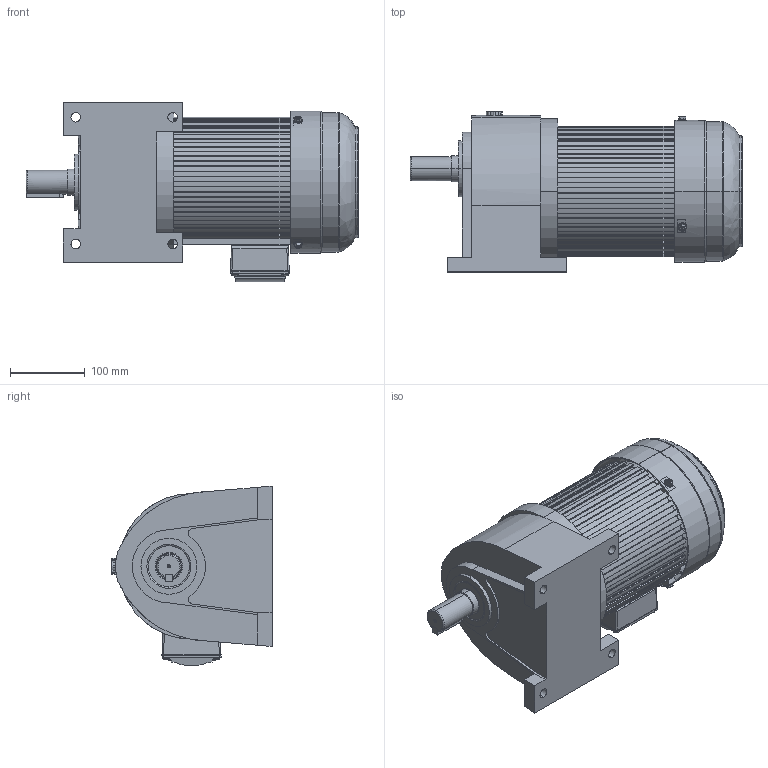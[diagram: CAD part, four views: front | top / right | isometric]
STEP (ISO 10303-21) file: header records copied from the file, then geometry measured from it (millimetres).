
FILE_DESCRIPTION (( 'STEP AP214' ), '1' );
FILE_NAME ('CH32-1500W去字改颜色.STEP', '2024-01-08T13:02:20', ( '微软用户' ), ( '微软中国' ), 'SwSTEP 2.0', 'SolidWorks 2014', '' );
FILE_SCHEMA (( 'AUTOMOTIVE_DESIGN' ));
Length unit declared in the file: millimetre
Products named in the file (9): 瑞珔欶蹟佪; 190瑞珔欶; 160綴裔; 1500W萇儂俋褲; CH32; CH32-1500W去字改颜色; 諉盄碟蹟佪; 奻裔(臏ㄘ; 菁碟ㄗ臏ㄘ
Assembly tree (13 placements, depth 2):
  CH32-1500W去字改颜色
    CH32
    1500W萇儂俋褲
    160綴裔
    190瑞珔欶
    瑞珔欶蹟佪  x3
    菁碟ㄗ臏ㄘ
    奻裔(臏ㄘ
    諉盄碟蹟佪  x4
Bounding box: 445.09 x 215 x 241.05 mm (x, y, z)
Volume: 2865495.5 mm3; surface area: 848933.2 mm2
Topology: 19 solids, 20 shells, 1982 faces, 5518 edges, 3628 vertices
Faces by surface type: cylinder 904, plane 879, bspline 135, cone 64
Entity records: 85594 total; most frequent: CARTESIAN_POINT 41323, ORIENTED_EDGE 9486, DIRECTION 8764, EDGE_CURVE 4743, VERTEX_POINT 3121, AXIS2_PLACEMENT_3D 2941, VECTOR 2882, LINE 2882
